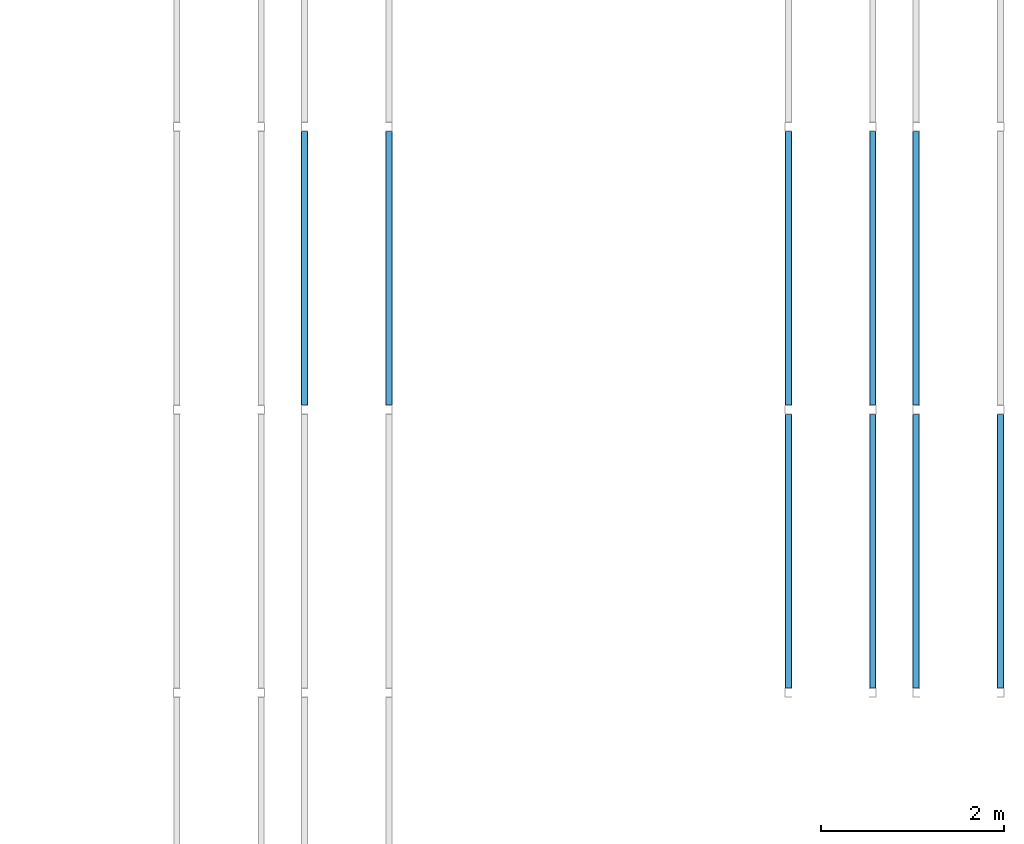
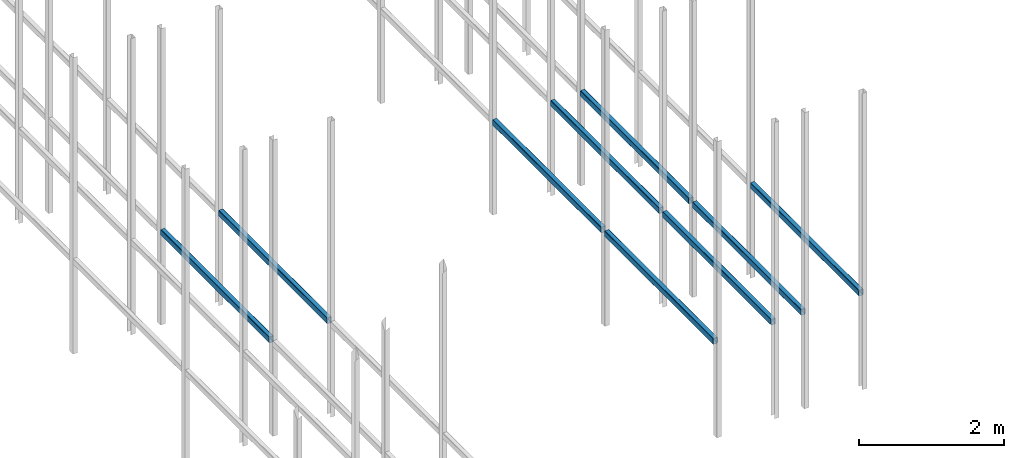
# One storey, part 179 of 302: 9 beams.
"""IFC2X3 building model written with IfcOpenShell, lengths in metres."""

from ifc_helpers import new_model, entity, si_unit, converted_unit, derived_unit, direction, frame, frame_2d, origin, place, context, subcontext, project, spatial, polyline, circle_curve, parameter, trimmed, segment, composite_curve, outline, extrude, material, type_object, element, save


model = new_model("IFC2X3")

# Units and contexts
model_context = context("Model", 3, precision=1e-05, world=origin(), true_north=direction((6.12303176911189e-17, 1.0)))
body_context = subcontext(model_context, "Body", "Model", "MODEL_VIEW")
ifc_project = project(units=[si_unit("LENGTHUNIT", "METRE"), si_unit("AREAUNIT", "SQUARE_METRE"), si_unit("VOLUMEUNIT", "CUBIC_METRE"), converted_unit("PLANEANGLEUNIT", "DEGREE", entity("IfcRatioMeasure", 0.0174532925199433), si_unit("PLANEANGLEUNIT", "RADIAN"), dimensions=[0, 0, 0, 0, 0, 0, 0]), si_unit("MASSUNIT", "GRAM", prefix="KILO"), derived_unit("MASSDENSITYUNIT", [(si_unit("MASSUNIT", "GRAM", prefix="KILO"), 1), (si_unit("LENGTHUNIT", "METRE"), -3)]), derived_unit("MOMENTOFINERTIAUNIT", [(si_unit("LENGTHUNIT", "METRE"), 4)]), si_unit("TIMEUNIT", "SECOND"), si_unit("FREQUENCYUNIT", "HERTZ"), si_unit("THERMODYNAMICTEMPERATUREUNIT", "DEGREE_CELSIUS"), derived_unit("THERMALTRANSMITTANCEUNIT", [(si_unit("MASSUNIT", "GRAM", prefix="KILO"), 1), (si_unit("THERMODYNAMICTEMPERATUREUNIT", "KELVIN"), -1), (si_unit("TIMEUNIT", "SECOND"), -3)]), derived_unit("VOLUMETRICFLOWRATEUNIT", [(si_unit("LENGTHUNIT", "METRE"), 3), (si_unit("TIMEUNIT", "SECOND"), -1)]), si_unit("ELECTRICCURRENTUNIT", "AMPERE"), si_unit("ELECTRICVOLTAGEUNIT", "VOLT"), si_unit("POWERUNIT", "WATT"), si_unit("FORCEUNIT", "NEWTON", prefix="KILO"), si_unit("ILLUMINANCEUNIT", "LUX"), si_unit("LUMINOUSFLUXUNIT", "LUMEN"), si_unit("LUMINOUSINTENSITYUNIT", "CANDELA"), derived_unit("USERDEFINED", [(si_unit("MASSUNIT", "GRAM", prefix="KILO"), -1), (si_unit("LENGTHUNIT", "METRE"), -2), (si_unit("TIMEUNIT", "SECOND"), 3), (si_unit("LUMINOUSFLUXUNIT", "LUMEN"), 1)]), derived_unit("LINEARVELOCITYUNIT", [(si_unit("LENGTHUNIT", "METRE"), 1), (si_unit("TIMEUNIT", "SECOND"), -1)]), si_unit("PRESSUREUNIT", "PASCAL"), derived_unit("USERDEFINED", [(si_unit("LENGTHUNIT", "METRE"), -2), (si_unit("MASSUNIT", "GRAM", prefix="KILO"), 1), (si_unit("TIMEUNIT", "SECOND"), -2)]), derived_unit("LINEARFORCEUNIT", [(si_unit("MASSUNIT", "GRAM", prefix="KILO"), 1), (si_unit("LENGTHUNIT", "METRE"), 1), (si_unit("TIMEUNIT", "SECOND"), -2), (si_unit("LENGTHUNIT", "METRE"), -1)]), derived_unit("PLANARFORCEUNIT", [(si_unit("MASSUNIT", "GRAM", prefix="KILO"), 1), (si_unit("LENGTHUNIT", "METRE"), 1), (si_unit("TIMEUNIT", "SECOND"), -2), (si_unit("LENGTHUNIT", "METRE"), -2)])], contexts=[model_context])

# Site, building, storey
site_placement = place(None, origin())
site = spatial("IfcSite", under=ifc_project, at=site_placement, Name="Default", CompositionType="ELEMENT")
building_placement = place(site_placement, origin())
building = spatial("IfcBuilding", under=site, at=building_placement, CompositionType="ELEMENT")
storey_placement = place(building_placement, frame((0.0, 0.0, -1.3)))
storey = spatial("IfcBuildingStorey", under=building, at=storey_placement, Name="00_EG", CompositionType="ELEMENT", Elevation=-1.3)

# Beams
ifc_material = material(Name="Metall - Baustahl S235 blau")
beam_type = type_object("IfcBeamType", Name="RHS Träger (EN 10219-2):RHS 100 x 75 x 5", PredefinedType="NOTDEFINED")
beam_1_placement = place(storey_placement, frame((-157.718311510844, 45.2480889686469, 2.885), z_axis=(0.0, 0.0, 1.0), x_axis=(0.0, 1.0, 0.0)))
element("IfcBeam", 1, at=beam_1_placement, inside=storey, type_object=beam_type, material=ifc_material, Name="RHS Träger (EN 10219-2):RHS 100 x 75 x 5", ObjectType="RHS Träger (EN 10219-2):RHS 100 x 75 x 5", context=body_context, shape_type="SweptSolid", body=[
    extrude(outline(composite_curve([segment(trimmed(circle_curve(frame_2d((-0.0274999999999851, -0.0400000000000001), x_axis=(1.0, 0.0)), 0.01), [parameter(180.0)], [parameter(270.0)], True, "PARAMETER"), True, "CONTINUOUS"), segment(polyline([(-0.0274999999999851, -0.05), (0.0274999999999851, -0.05)]), True, "CONTINUOUS"), segment(trimmed(circle_curve(frame_2d((0.0274999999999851, -0.0400000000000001), x_axis=(1.0, 0.0)), 0.01), [parameter(270.0)], [parameter(5.08888749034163e-14)], True, "PARAMETER"), True, "CONTINUOUS"), segment(polyline([(0.0375000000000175, -0.0399999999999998), (0.0375000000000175, 0.0400000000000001)]), True, "CONTINUOUS"), segment(trimmed(circle_curve(frame_2d((0.0274999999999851, 0.0399999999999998), x_axis=(1.0, 0.0)), 0.01), [parameter(360.0)], [parameter(89.9999999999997)], True, "PARAMETER"), True, "CONTINUOUS"), segment(polyline([(0.0274999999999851, 0.05), (-0.0274999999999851, 0.05)]), True, "CONTINUOUS"), segment(trimmed(circle_curve(frame_2d((-0.0274999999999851, 0.0399999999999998), x_axis=(1.0, 0.0)), 0.01), [parameter(90.0000000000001)], [parameter(180.0)], True, "PARAMETER"), True, "CONTINUOUS"), segment(polyline([(-0.0374999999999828, 0.0400000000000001), (-0.0374999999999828, -0.0399999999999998)]), True, "CONTINUOUS")], self_intersect=False), holes=[composite_curve([segment(polyline([(0.0274999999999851, -0.0450000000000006), (-0.0274999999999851, -0.0450000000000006)]), True, "CONTINUOUS"), segment(trimmed(circle_curve(frame_2d((-0.0274999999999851, -0.0400000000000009), x_axis=(1.0, 0.0)), 0.005), [parameter(180.0)], [parameter(270.0)], True, "PARAMETER"), False, "CONTINUOUS"), segment(polyline([(-0.0325000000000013, -0.0400000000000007), (-0.0325000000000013, 0.0399999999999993)]), True, "CONTINUOUS"), segment(trimmed(circle_curve(frame_2d((-0.0274999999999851, 0.039999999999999), x_axis=(1.0, 0.0)), 0.005), [parameter(90.0000000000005)], [parameter(180.0)], True, "PARAMETER"), False, "CONTINUOUS"), segment(polyline([(-0.0274999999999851, 0.0449999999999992), (0.0274999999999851, 0.0449999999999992)]), True, "CONTINUOUS"), segment(trimmed(circle_curve(frame_2d((0.0274999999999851, 0.039999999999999), x_axis=(1.0, 0.0)), 0.005), [parameter(0.0)], [parameter(90.0000000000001)], True, "PARAMETER"), False, "CONTINUOUS"), segment(polyline([(0.0325000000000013, 0.0399999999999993), (0.0325000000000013, -0.0400000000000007)]), True, "CONTINUOUS"), segment(trimmed(circle_curve(frame_2d((0.0274999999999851, -0.0400000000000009), x_axis=(1.0, 0.0)), 0.005), [parameter(270.0)], [parameter(4.07110999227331e-13)], True, "PARAMETER"), False, "CONTINUOUS")], self_intersect=False)]), frame((9.99999999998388e-05, 0.0375000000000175, -0.0500000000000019), z_axis=(1.0, 0.0, 0.0), x_axis=(0.0, -1.0, 0.0)), (0.0, 0.0, 1.0), 2.99979999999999),
])
beam_2_placement = place(storey_placement, frame((-156.868311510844, 45.2480889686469, 2.885), z_axis=(0.0, 0.0, 1.0), x_axis=(0.0, 1.0, 0.0)))
element("IfcBeam", 2, at=beam_2_placement, inside=storey, type_object=beam_type, material=ifc_material, Name="RHS Träger (EN 10219-2):RHS 100 x 75 x 5", ObjectType="RHS Träger (EN 10219-2):RHS 100 x 75 x 5", context=body_context, shape_type="SweptSolid", body=[
    extrude(outline(composite_curve([segment(polyline([(-0.0399999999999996, -0.0374999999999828), (0.0400000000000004, -0.0374999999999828)]), True, "CONTINUOUS"), segment(trimmed(circle_curve(frame_2d((0.0400000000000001, -0.0274999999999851), x_axis=(0.0, 1.0)), 0.01), [parameter(180.0)], [parameter(270.0)], True, "PARAMETER"), True, "CONTINUOUS"), segment(polyline([(0.0500000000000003, -0.0274999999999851), (0.0500000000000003, 0.0274999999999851)]), True, "CONTINUOUS"), segment(trimmed(circle_curve(frame_2d((0.0400000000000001, 0.0274999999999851), x_axis=(0.0, 1.0)), 0.01), [parameter(270.0)], [parameter(4.07110999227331e-13)], True, "PARAMETER"), True, "CONTINUOUS"), segment(polyline([(0.0400000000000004, 0.0375000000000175), (-0.0399999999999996, 0.0375000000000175)]), True, "CONTINUOUS"), segment(trimmed(circle_curve(frame_2d((-0.0399999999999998, 0.0274999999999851), x_axis=(0.0, 1.0)), 0.01), [parameter(360.0)], [parameter(90.0000000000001)], True, "PARAMETER"), True, "CONTINUOUS"), segment(polyline([(-0.0499999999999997, 0.0274999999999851), (-0.0499999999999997, -0.0274999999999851)]), True, "CONTINUOUS"), segment(trimmed(circle_curve(frame_2d((-0.0399999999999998, -0.0274999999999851), x_axis=(0.0, 1.0)), 0.01), [parameter(90.0000000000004)], [parameter(180.0)], True, "PARAMETER"), True, "CONTINUOUS")], self_intersect=False), holes=[composite_curve([segment(trimmed(circle_curve(frame_2d((-0.0400000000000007, 0.0274999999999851), x_axis=(0.0, 1.0)), 0.005), [parameter(360.0)], [parameter(89.9999999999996)], True, "PARAMETER"), False, "CONTINUOUS"), segment(polyline([(-0.0400000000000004, 0.0325000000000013), (0.0399999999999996, 0.0325000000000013)]), True, "CONTINUOUS"), segment(trimmed(circle_curve(frame_2d((0.0399999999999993, 0.0274999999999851), x_axis=(0.0, 1.0)), 0.005), [parameter(270.0)], [parameter(0.0)], True, "PARAMETER"), False, "CONTINUOUS"), segment(polyline([(0.0449999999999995, 0.0274999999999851), (0.0449999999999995, -0.0274999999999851)]), True, "CONTINUOUS"), segment(trimmed(circle_curve(frame_2d((0.0399999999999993, -0.0274999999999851), x_axis=(0.0, 1.0)), 0.005), [parameter(180.0)], [parameter(269.999999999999)], True, "PARAMETER"), False, "CONTINUOUS"), segment(polyline([(0.0399999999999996, -0.0325000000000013), (-0.0400000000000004, -0.0325000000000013)]), True, "CONTINUOUS"), segment(trimmed(circle_curve(frame_2d((-0.0400000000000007, -0.0274999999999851), x_axis=(0.0, 1.0)), 0.005), [parameter(90.0000000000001)], [parameter(180.0)], True, "PARAMETER"), False, "CONTINUOUS"), segment(polyline([(-0.0450000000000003, -0.0274999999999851), (-0.0450000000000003, 0.0274999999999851)]), True, "CONTINUOUS")], self_intersect=False)]), frame((9.99999999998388e-05, -0.0375000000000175, -0.0500000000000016), z_axis=(1.0, 0.0, 0.0), x_axis=(0.0, 0.0, -1.0)), (0.0, 0.0, 1.0), 2.99979999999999),
])
beam_3_placement = place(storey_placement, frame((-152.418311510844, 42.1480889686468, 2.885), z_axis=(0.0, 0.0, 1.0), x_axis=(0.0, 1.0, 0.0)))
element("IfcBeam", 3, at=beam_3_placement, inside=storey, type_object=beam_type, material=ifc_material, Name="RHS Träger (EN 10219-2):RHS 100 x 75 x 5", ObjectType="RHS Träger (EN 10219-2):RHS 100 x 75 x 5", context=body_context, shape_type="SweptSolid", body=[
    extrude(outline(composite_curve([segment(trimmed(circle_curve(frame_2d((-0.0275000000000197, -0.0400000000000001), x_axis=(1.0, 0.0)), 0.01), [parameter(180.0)], [parameter(270.0)], True, "PARAMETER"), True, "CONTINUOUS"), segment(polyline([(-0.0275000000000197, -0.05), (0.0274999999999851, -0.05)]), True, "CONTINUOUS"), segment(trimmed(circle_curve(frame_2d((0.0274999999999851, -0.0400000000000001), x_axis=(1.0, 0.0)), 0.01), [parameter(270.0)], [parameter(5.08888749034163e-14)], True, "PARAMETER"), True, "CONTINUOUS"), segment(polyline([(0.0374999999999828, -0.0399999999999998), (0.0374999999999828, 0.0400000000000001)]), True, "CONTINUOUS"), segment(trimmed(circle_curve(frame_2d((0.0274999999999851, 0.0399999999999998), x_axis=(1.0, 0.0)), 0.01), [parameter(360.0)], [parameter(89.9999999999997)], True, "PARAMETER"), True, "CONTINUOUS"), segment(polyline([(0.0274999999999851, 0.05), (-0.0275000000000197, 0.05)]), True, "CONTINUOUS"), segment(trimmed(circle_curve(frame_2d((-0.0275000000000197, 0.0399999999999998), x_axis=(1.0, 0.0)), 0.01), [parameter(90.0000000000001)], [parameter(180.0)], True, "PARAMETER"), True, "CONTINUOUS"), segment(polyline([(-0.0375000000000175, 0.0400000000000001), (-0.0375000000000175, -0.0399999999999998)]), True, "CONTINUOUS")], self_intersect=False), holes=[composite_curve([segment(polyline([(0.0274999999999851, -0.0450000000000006), (-0.0275000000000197, -0.0450000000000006)]), True, "CONTINUOUS"), segment(trimmed(circle_curve(frame_2d((-0.0275000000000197, -0.0400000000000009), x_axis=(1.0, 0.0)), 0.005), [parameter(180.0)], [parameter(270.0)], True, "PARAMETER"), False, "CONTINUOUS"), segment(polyline([(-0.0325000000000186, -0.0400000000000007), (-0.0325000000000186, 0.0399999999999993)]), True, "CONTINUOUS"), segment(trimmed(circle_curve(frame_2d((-0.0275000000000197, 0.039999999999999), x_axis=(1.0, 0.0)), 0.005), [parameter(90.0000000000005)], [parameter(180.0)], True, "PARAMETER"), False, "CONTINUOUS"), segment(polyline([(-0.0275000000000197, 0.0449999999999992), (0.0274999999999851, 0.0449999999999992)]), True, "CONTINUOUS"), segment(trimmed(circle_curve(frame_2d((0.0274999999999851, 0.039999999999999), x_axis=(1.0, 0.0)), 0.005), [parameter(0.0)], [parameter(90.0000000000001)], True, "PARAMETER"), False, "CONTINUOUS"), segment(polyline([(0.0324999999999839, 0.0399999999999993), (0.0324999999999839, -0.0400000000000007)]), True, "CONTINUOUS"), segment(trimmed(circle_curve(frame_2d((0.0274999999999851, -0.0400000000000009), x_axis=(1.0, 0.0)), 0.005), [parameter(270.0)], [parameter(4.07110999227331e-13)], True, "PARAMETER"), False, "CONTINUOUS")], self_intersect=False)]), frame((9.99999999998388e-05, 0.0374999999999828, -0.0500000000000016), z_axis=(1.0, 0.0, 0.0), x_axis=(0.0, -1.0, 0.0)), (0.0, 0.0, 1.0), 2.99979999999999),
])
beam_4_placement = place(storey_placement, frame((-151.568311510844, 42.1480889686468, 2.885), z_axis=(0.0, 0.0, 1.0), x_axis=(0.0, 1.0, 0.0)))
element("IfcBeam", 4, at=beam_4_placement, inside=storey, type_object=beam_type, material=ifc_material, Name="RHS Träger (EN 10219-2):RHS 100 x 75 x 5", ObjectType="RHS Träger (EN 10219-2):RHS 100 x 75 x 5", context=body_context, shape_type="SweptSolid", body=[
    extrude(outline(composite_curve([segment(polyline([(-0.0399999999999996, -0.0374999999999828), (0.0400000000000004, -0.0374999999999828)]), True, "CONTINUOUS"), segment(trimmed(circle_curve(frame_2d((0.0400000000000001, -0.0274999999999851), x_axis=(0.0, 1.0)), 0.01), [parameter(180.0)], [parameter(270.0)], True, "PARAMETER"), True, "CONTINUOUS"), segment(polyline([(0.0500000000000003, -0.0274999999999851), (0.0500000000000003, 0.0275000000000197)]), True, "CONTINUOUS"), segment(trimmed(circle_curve(frame_2d((0.0400000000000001, 0.0275000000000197), x_axis=(0.0, 1.0)), 0.01), [parameter(270.0)], [parameter(4.07110999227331e-13)], True, "PARAMETER"), True, "CONTINUOUS"), segment(polyline([(0.0400000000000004, 0.0375000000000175), (-0.0399999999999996, 0.0375000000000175)]), True, "CONTINUOUS"), segment(trimmed(circle_curve(frame_2d((-0.0399999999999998, 0.0275000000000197), x_axis=(0.0, 1.0)), 0.01), [parameter(360.0)], [parameter(90.0000000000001)], True, "PARAMETER"), True, "CONTINUOUS"), segment(polyline([(-0.0499999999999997, 0.0275000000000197), (-0.0499999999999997, -0.0274999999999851)]), True, "CONTINUOUS"), segment(trimmed(circle_curve(frame_2d((-0.0399999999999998, -0.0274999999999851), x_axis=(0.0, 1.0)), 0.01), [parameter(90.0000000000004)], [parameter(180.0)], True, "PARAMETER"), True, "CONTINUOUS")], self_intersect=False), holes=[composite_curve([segment(trimmed(circle_curve(frame_2d((-0.0400000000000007, 0.0275000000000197), x_axis=(0.0, 1.0)), 0.005), [parameter(360.0)], [parameter(89.9999999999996)], True, "PARAMETER"), False, "CONTINUOUS"), segment(polyline([(-0.0400000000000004, 0.0325000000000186), (0.0399999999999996, 0.0325000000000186)]), True, "CONTINUOUS"), segment(trimmed(circle_curve(frame_2d((0.0399999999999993, 0.0275000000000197), x_axis=(0.0, 1.0)), 0.005), [parameter(270.0)], [parameter(0.0)], True, "PARAMETER"), False, "CONTINUOUS"), segment(polyline([(0.0449999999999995, 0.0275000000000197), (0.0449999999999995, -0.0274999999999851)]), True, "CONTINUOUS"), segment(trimmed(circle_curve(frame_2d((0.0399999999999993, -0.0274999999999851), x_axis=(0.0, 1.0)), 0.005), [parameter(180.0)], [parameter(269.999999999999)], True, "PARAMETER"), False, "CONTINUOUS"), segment(polyline([(0.0399999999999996, -0.0324999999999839), (-0.0400000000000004, -0.0324999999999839)]), True, "CONTINUOUS"), segment(trimmed(circle_curve(frame_2d((-0.0400000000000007, -0.0274999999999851), x_axis=(0.0, 1.0)), 0.005), [parameter(90.0000000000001)], [parameter(180.0)], True, "PARAMETER"), False, "CONTINUOUS"), segment(polyline([(-0.0450000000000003, -0.0274999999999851), (-0.0450000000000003, 0.0275000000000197)]), True, "CONTINUOUS")], self_intersect=False)]), frame((0.000100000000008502, -0.0375000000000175, -0.0500000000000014), z_axis=(1.0, 0.0, 0.0), x_axis=(0.0, 0.0, -1.0)), (0.0, 0.0, 1.0), 2.99979999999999),
])
beam_5_placement = place(storey_placement, frame((-151.018311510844, 42.1480889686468, 2.885), z_axis=(0.0, 0.0, 1.0), x_axis=(0.0, 1.0, 0.0)))
element("IfcBeam", 5, at=beam_5_placement, inside=storey, type_object=beam_type, material=ifc_material, Name="RHS Träger (EN 10219-2):RHS 100 x 75 x 5", ObjectType="RHS Träger (EN 10219-2):RHS 100 x 75 x 5", context=body_context, shape_type="SweptSolid", body=[
    extrude(outline(composite_curve([segment(trimmed(circle_curve(frame_2d((-0.0275000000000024, -0.0400000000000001), x_axis=(1.0, 0.0)), 0.01), [parameter(180.0)], [parameter(270.0)], True, "PARAMETER"), True, "CONTINUOUS"), segment(polyline([(-0.0275000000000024, -0.05), (0.0275000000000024, -0.05)]), True, "CONTINUOUS"), segment(trimmed(circle_curve(frame_2d((0.0275000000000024, -0.0400000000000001), x_axis=(1.0, 0.0)), 0.01), [parameter(270.0)], [parameter(5.08888749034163e-14)], True, "PARAMETER"), True, "CONTINUOUS"), segment(polyline([(0.0375000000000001, -0.0399999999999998), (0.0375000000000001, 0.0400000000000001)]), True, "CONTINUOUS"), segment(trimmed(circle_curve(frame_2d((0.0275000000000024, 0.0399999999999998), x_axis=(1.0, 0.0)), 0.01), [parameter(360.0)], [parameter(89.9999999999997)], True, "PARAMETER"), True, "CONTINUOUS"), segment(polyline([(0.0275000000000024, 0.05), (-0.0275000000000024, 0.05)]), True, "CONTINUOUS"), segment(trimmed(circle_curve(frame_2d((-0.0275000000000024, 0.0399999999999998), x_axis=(1.0, 0.0)), 0.01), [parameter(90.0000000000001)], [parameter(180.0)], True, "PARAMETER"), True, "CONTINUOUS"), segment(polyline([(-0.0375000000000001, 0.0400000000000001), (-0.0375000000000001, -0.0399999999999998)]), True, "CONTINUOUS")], self_intersect=False), holes=[composite_curve([segment(polyline([(0.0275000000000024, -0.0450000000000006), (-0.0275000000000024, -0.0450000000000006)]), True, "CONTINUOUS"), segment(trimmed(circle_curve(frame_2d((-0.0275000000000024, -0.0400000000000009), x_axis=(1.0, 0.0)), 0.005), [parameter(180.0)], [parameter(270.0)], True, "PARAMETER"), False, "CONTINUOUS"), segment(polyline([(-0.0325000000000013, -0.0400000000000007), (-0.0325000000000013, 0.0399999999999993)]), True, "CONTINUOUS"), segment(trimmed(circle_curve(frame_2d((-0.0275000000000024, 0.039999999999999), x_axis=(1.0, 0.0)), 0.005), [parameter(90.0000000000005)], [parameter(180.0)], True, "PARAMETER"), False, "CONTINUOUS"), segment(polyline([(-0.0275000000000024, 0.0449999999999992), (0.0275000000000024, 0.0449999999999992)]), True, "CONTINUOUS"), segment(trimmed(circle_curve(frame_2d((0.0275000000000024, 0.039999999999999), x_axis=(1.0, 0.0)), 0.005), [parameter(0.0)], [parameter(90.0000000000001)], True, "PARAMETER"), False, "CONTINUOUS"), segment(polyline([(0.0325000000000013, 0.0399999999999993), (0.0325000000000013, -0.0400000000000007)]), True, "CONTINUOUS"), segment(trimmed(circle_curve(frame_2d((0.0275000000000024, -0.0400000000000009), x_axis=(1.0, 0.0)), 0.005), [parameter(270.0)], [parameter(4.07110999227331e-13)], True, "PARAMETER"), False, "CONTINUOUS")], self_intersect=False)]), frame((9.99999999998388e-05, 0.0375000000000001, -0.0500000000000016), z_axis=(1.0, 0.0, 0.0), x_axis=(0.0, -1.0, 0.0)), (0.0, 0.0, 1.0), 2.99979999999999),
])
beam_6_placement = place(storey_placement, frame((-150.168311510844, 42.1480889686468, 2.885), z_axis=(0.0, 0.0, 1.0), x_axis=(0.0, 1.0, 0.0)))
element("IfcBeam", 6, at=beam_6_placement, inside=storey, type_object=beam_type, material=ifc_material, Name="RHS Träger (EN 10219-2):RHS 100 x 75 x 5", ObjectType="RHS Träger (EN 10219-2):RHS 100 x 75 x 5", context=body_context, shape_type="SweptSolid", body=[
    extrude(outline(composite_curve([segment(polyline([(-0.0399999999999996, -0.0375000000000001), (0.0400000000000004, -0.0375000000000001)]), True, "CONTINUOUS"), segment(trimmed(circle_curve(frame_2d((0.0400000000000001, -0.0275000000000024), x_axis=(0.0, 1.0)), 0.01), [parameter(180.0)], [parameter(270.0)], True, "PARAMETER"), True, "CONTINUOUS"), segment(polyline([(0.0500000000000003, -0.0275000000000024), (0.0500000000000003, 0.0275000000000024)]), True, "CONTINUOUS"), segment(trimmed(circle_curve(frame_2d((0.0400000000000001, 0.0275000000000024), x_axis=(0.0, 1.0)), 0.01), [parameter(270.0)], [parameter(4.07110999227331e-13)], True, "PARAMETER"), True, "CONTINUOUS"), segment(polyline([(0.0400000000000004, 0.0375000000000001), (-0.0399999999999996, 0.0375000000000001)]), True, "CONTINUOUS"), segment(trimmed(circle_curve(frame_2d((-0.0399999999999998, 0.0275000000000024), x_axis=(0.0, 1.0)), 0.01), [parameter(360.0)], [parameter(90.0000000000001)], True, "PARAMETER"), True, "CONTINUOUS"), segment(polyline([(-0.0499999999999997, 0.0275000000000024), (-0.0499999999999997, -0.0275000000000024)]), True, "CONTINUOUS"), segment(trimmed(circle_curve(frame_2d((-0.0399999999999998, -0.0275000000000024), x_axis=(0.0, 1.0)), 0.01), [parameter(90.0000000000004)], [parameter(180.0)], True, "PARAMETER"), True, "CONTINUOUS")], self_intersect=False), holes=[composite_curve([segment(trimmed(circle_curve(frame_2d((-0.0400000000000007, 0.0275000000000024), x_axis=(0.0, 1.0)), 0.005), [parameter(360.0)], [parameter(89.9999999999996)], True, "PARAMETER"), False, "CONTINUOUS"), segment(polyline([(-0.0400000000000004, 0.0325000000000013), (0.0399999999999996, 0.0325000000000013)]), True, "CONTINUOUS"), segment(trimmed(circle_curve(frame_2d((0.0399999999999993, 0.0275000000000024), x_axis=(0.0, 1.0)), 0.005), [parameter(270.0)], [parameter(0.0)], True, "PARAMETER"), False, "CONTINUOUS"), segment(polyline([(0.0449999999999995, 0.0275000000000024), (0.0449999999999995, -0.0275000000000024)]), True, "CONTINUOUS"), segment(trimmed(circle_curve(frame_2d((0.0399999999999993, -0.0275000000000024), x_axis=(0.0, 1.0)), 0.005), [parameter(180.0)], [parameter(269.999999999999)], True, "PARAMETER"), False, "CONTINUOUS"), segment(polyline([(0.0399999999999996, -0.0325000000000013), (-0.0400000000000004, -0.0325000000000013)]), True, "CONTINUOUS"), segment(trimmed(circle_curve(frame_2d((-0.0400000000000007, -0.0275000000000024), x_axis=(0.0, 1.0)), 0.005), [parameter(90.0000000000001)], [parameter(180.0)], True, "PARAMETER"), False, "CONTINUOUS"), segment(polyline([(-0.0450000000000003, -0.0275000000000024), (-0.0450000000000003, 0.0275000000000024)]), True, "CONTINUOUS")], self_intersect=False)]), frame((0.000100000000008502, -0.0375000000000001, -0.0500000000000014), z_axis=(1.0, 0.0, 0.0), x_axis=(0.0, 0.0, -1.0)), (0.0, 0.0, 1.0), 2.99979999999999),
])
beam_7_placement = place(storey_placement, frame((-152.418311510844, 45.2480889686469, 2.885), z_axis=(0.0, 0.0, 1.0), x_axis=(0.0, 1.0, 0.0)))
element("IfcBeam", 7, at=beam_7_placement, inside=storey, type_object=beam_type, material=ifc_material, Name="RHS Träger (EN 10219-2):RHS 100 x 75 x 5", ObjectType="RHS Träger (EN 10219-2):RHS 100 x 75 x 5", context=body_context, shape_type="SweptSolid", body=[
    extrude(outline(composite_curve([segment(trimmed(circle_curve(frame_2d((-0.0275000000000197, -0.0400000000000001), x_axis=(1.0, 0.0)), 0.01), [parameter(180.0)], [parameter(270.0)], True, "PARAMETER"), True, "CONTINUOUS"), segment(polyline([(-0.0275000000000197, -0.05), (0.0274999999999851, -0.05)]), True, "CONTINUOUS"), segment(trimmed(circle_curve(frame_2d((0.0274999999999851, -0.0400000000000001), x_axis=(1.0, 0.0)), 0.01), [parameter(270.0)], [parameter(5.08888749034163e-14)], True, "PARAMETER"), True, "CONTINUOUS"), segment(polyline([(0.0374999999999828, -0.0399999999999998), (0.0374999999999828, 0.0400000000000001)]), True, "CONTINUOUS"), segment(trimmed(circle_curve(frame_2d((0.0274999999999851, 0.0399999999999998), x_axis=(1.0, 0.0)), 0.01), [parameter(360.0)], [parameter(89.9999999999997)], True, "PARAMETER"), True, "CONTINUOUS"), segment(polyline([(0.0274999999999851, 0.05), (-0.0275000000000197, 0.05)]), True, "CONTINUOUS"), segment(trimmed(circle_curve(frame_2d((-0.0275000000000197, 0.0399999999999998), x_axis=(1.0, 0.0)), 0.01), [parameter(90.0000000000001)], [parameter(180.0)], True, "PARAMETER"), True, "CONTINUOUS"), segment(polyline([(-0.0375000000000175, 0.0400000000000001), (-0.0375000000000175, -0.0399999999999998)]), True, "CONTINUOUS")], self_intersect=False), holes=[composite_curve([segment(polyline([(0.0274999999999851, -0.0450000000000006), (-0.0275000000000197, -0.0450000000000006)]), True, "CONTINUOUS"), segment(trimmed(circle_curve(frame_2d((-0.0275000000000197, -0.0400000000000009), x_axis=(1.0, 0.0)), 0.005), [parameter(180.0)], [parameter(270.0)], True, "PARAMETER"), False, "CONTINUOUS"), segment(polyline([(-0.0325000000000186, -0.0400000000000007), (-0.0325000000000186, 0.0399999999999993)]), True, "CONTINUOUS"), segment(trimmed(circle_curve(frame_2d((-0.0275000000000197, 0.039999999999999), x_axis=(1.0, 0.0)), 0.005), [parameter(90.0000000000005)], [parameter(180.0)], True, "PARAMETER"), False, "CONTINUOUS"), segment(polyline([(-0.0275000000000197, 0.0449999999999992), (0.0274999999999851, 0.0449999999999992)]), True, "CONTINUOUS"), segment(trimmed(circle_curve(frame_2d((0.0274999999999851, 0.039999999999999), x_axis=(1.0, 0.0)), 0.005), [parameter(0.0)], [parameter(90.0000000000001)], True, "PARAMETER"), False, "CONTINUOUS"), segment(polyline([(0.0324999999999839, 0.0399999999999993), (0.0324999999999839, -0.0400000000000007)]), True, "CONTINUOUS"), segment(trimmed(circle_curve(frame_2d((0.0274999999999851, -0.0400000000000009), x_axis=(1.0, 0.0)), 0.005), [parameter(270.0)], [parameter(4.07110999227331e-13)], True, "PARAMETER"), False, "CONTINUOUS")], self_intersect=False)]), frame((0.000100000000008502, 0.0374999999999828, -0.0500000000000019), z_axis=(1.0, 0.0, 0.0), x_axis=(0.0, -1.0, 0.0)), (0.0, 0.0, 1.0), 2.99979999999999),
])
beam_8_placement = place(storey_placement, frame((-151.568311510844, 45.2480889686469, 2.885), z_axis=(0.0, 0.0, 1.0), x_axis=(0.0, 1.0, 0.0)))
element("IfcBeam", 8, at=beam_8_placement, inside=storey, type_object=beam_type, material=ifc_material, Name="RHS Träger (EN 10219-2):RHS 100 x 75 x 5", ObjectType="RHS Träger (EN 10219-2):RHS 100 x 75 x 5", context=body_context, shape_type="SweptSolid", body=[
    extrude(outline(composite_curve([segment(polyline([(-0.0399999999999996, -0.0374999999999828), (0.0400000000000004, -0.0374999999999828)]), True, "CONTINUOUS"), segment(trimmed(circle_curve(frame_2d((0.0400000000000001, -0.0274999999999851), x_axis=(0.0, 1.0)), 0.01), [parameter(180.0)], [parameter(270.0)], True, "PARAMETER"), True, "CONTINUOUS"), segment(polyline([(0.0500000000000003, -0.0274999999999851), (0.0500000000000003, 0.0275000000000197)]), True, "CONTINUOUS"), segment(trimmed(circle_curve(frame_2d((0.0400000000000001, 0.0275000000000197), x_axis=(0.0, 1.0)), 0.01), [parameter(270.0)], [parameter(4.07110999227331e-13)], True, "PARAMETER"), True, "CONTINUOUS"), segment(polyline([(0.0400000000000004, 0.0375000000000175), (-0.0399999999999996, 0.0375000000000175)]), True, "CONTINUOUS"), segment(trimmed(circle_curve(frame_2d((-0.0399999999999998, 0.0275000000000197), x_axis=(0.0, 1.0)), 0.01), [parameter(360.0)], [parameter(90.0000000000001)], True, "PARAMETER"), True, "CONTINUOUS"), segment(polyline([(-0.0499999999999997, 0.0275000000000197), (-0.0499999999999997, -0.0274999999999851)]), True, "CONTINUOUS"), segment(trimmed(circle_curve(frame_2d((-0.0399999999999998, -0.0274999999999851), x_axis=(0.0, 1.0)), 0.01), [parameter(90.0000000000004)], [parameter(180.0)], True, "PARAMETER"), True, "CONTINUOUS")], self_intersect=False), holes=[composite_curve([segment(trimmed(circle_curve(frame_2d((-0.0400000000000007, 0.0275000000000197), x_axis=(0.0, 1.0)), 0.005), [parameter(360.0)], [parameter(89.9999999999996)], True, "PARAMETER"), False, "CONTINUOUS"), segment(polyline([(-0.0400000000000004, 0.0325000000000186), (0.0399999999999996, 0.0325000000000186)]), True, "CONTINUOUS"), segment(trimmed(circle_curve(frame_2d((0.0399999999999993, 0.0275000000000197), x_axis=(0.0, 1.0)), 0.005), [parameter(270.0)], [parameter(0.0)], True, "PARAMETER"), False, "CONTINUOUS"), segment(polyline([(0.0449999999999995, 0.0275000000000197), (0.0449999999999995, -0.0274999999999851)]), True, "CONTINUOUS"), segment(trimmed(circle_curve(frame_2d((0.0399999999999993, -0.0274999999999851), x_axis=(0.0, 1.0)), 0.005), [parameter(180.0)], [parameter(269.999999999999)], True, "PARAMETER"), False, "CONTINUOUS"), segment(polyline([(0.0399999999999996, -0.0324999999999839), (-0.0400000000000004, -0.0324999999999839)]), True, "CONTINUOUS"), segment(trimmed(circle_curve(frame_2d((-0.0400000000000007, -0.0274999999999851), x_axis=(0.0, 1.0)), 0.005), [parameter(90.0000000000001)], [parameter(180.0)], True, "PARAMETER"), False, "CONTINUOUS"), segment(polyline([(-0.0450000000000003, -0.0274999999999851), (-0.0450000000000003, 0.0275000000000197)]), True, "CONTINUOUS")], self_intersect=False)]), frame((0.000100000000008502, -0.0375000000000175, -0.0500000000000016), z_axis=(1.0, 0.0, 0.0), x_axis=(0.0, 0.0, -1.0)), (0.0, 0.0, 1.0), 2.99979999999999),
])
beam_9_placement = place(storey_placement, frame((-151.018311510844, 45.2480889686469, 2.885), z_axis=(0.0, 0.0, 1.0), x_axis=(0.0, 1.0, 0.0)))
element("IfcBeam", 9, at=beam_9_placement, inside=storey, type_object=beam_type, material=ifc_material, Name="RHS Träger (EN 10219-2):RHS 100 x 75 x 5", ObjectType="RHS Träger (EN 10219-2):RHS 100 x 75 x 5", context=body_context, shape_type="SweptSolid", body=[
    extrude(outline(composite_curve([segment(trimmed(circle_curve(frame_2d((-0.0275000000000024, -0.0400000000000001), x_axis=(1.0, 0.0)), 0.01), [parameter(180.0)], [parameter(270.0)], True, "PARAMETER"), True, "CONTINUOUS"), segment(polyline([(-0.0275000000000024, -0.05), (0.0275000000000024, -0.05)]), True, "CONTINUOUS"), segment(trimmed(circle_curve(frame_2d((0.0275000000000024, -0.0400000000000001), x_axis=(1.0, 0.0)), 0.01), [parameter(270.0)], [parameter(5.08888749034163e-14)], True, "PARAMETER"), True, "CONTINUOUS"), segment(polyline([(0.0375000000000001, -0.0399999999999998), (0.0375000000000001, 0.0400000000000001)]), True, "CONTINUOUS"), segment(trimmed(circle_curve(frame_2d((0.0275000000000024, 0.0399999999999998), x_axis=(1.0, 0.0)), 0.01), [parameter(360.0)], [parameter(89.9999999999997)], True, "PARAMETER"), True, "CONTINUOUS"), segment(polyline([(0.0275000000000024, 0.05), (-0.0275000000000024, 0.05)]), True, "CONTINUOUS"), segment(trimmed(circle_curve(frame_2d((-0.0275000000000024, 0.0399999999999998), x_axis=(1.0, 0.0)), 0.01), [parameter(90.0000000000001)], [parameter(180.0)], True, "PARAMETER"), True, "CONTINUOUS"), segment(polyline([(-0.0375000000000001, 0.0400000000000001), (-0.0375000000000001, -0.0399999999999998)]), True, "CONTINUOUS")], self_intersect=False), holes=[composite_curve([segment(polyline([(0.0275000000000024, -0.0450000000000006), (-0.0275000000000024, -0.0450000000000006)]), True, "CONTINUOUS"), segment(trimmed(circle_curve(frame_2d((-0.0275000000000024, -0.0400000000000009), x_axis=(1.0, 0.0)), 0.005), [parameter(180.0)], [parameter(270.0)], True, "PARAMETER"), False, "CONTINUOUS"), segment(polyline([(-0.0325000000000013, -0.0400000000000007), (-0.0325000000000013, 0.0399999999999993)]), True, "CONTINUOUS"), segment(trimmed(circle_curve(frame_2d((-0.0275000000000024, 0.039999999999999), x_axis=(1.0, 0.0)), 0.005), [parameter(90.0000000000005)], [parameter(180.0)], True, "PARAMETER"), False, "CONTINUOUS"), segment(polyline([(-0.0275000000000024, 0.0449999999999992), (0.0275000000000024, 0.0449999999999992)]), True, "CONTINUOUS"), segment(trimmed(circle_curve(frame_2d((0.0275000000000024, 0.039999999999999), x_axis=(1.0, 0.0)), 0.005), [parameter(0.0)], [parameter(90.0000000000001)], True, "PARAMETER"), False, "CONTINUOUS"), segment(polyline([(0.0325000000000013, 0.0399999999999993), (0.0325000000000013, -0.0400000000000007)]), True, "CONTINUOUS"), segment(trimmed(circle_curve(frame_2d((0.0275000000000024, -0.0400000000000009), x_axis=(1.0, 0.0)), 0.005), [parameter(270.0)], [parameter(4.07110999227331e-13)], True, "PARAMETER"), False, "CONTINUOUS")], self_intersect=False)]), frame((0.000100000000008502, 0.0375000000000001, -0.0500000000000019), z_axis=(1.0, 0.0, 0.0), x_axis=(0.0, -1.0, 0.0)), (0.0, 0.0, 1.0), 2.99979999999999),
])

save(model, "model.ifc")
